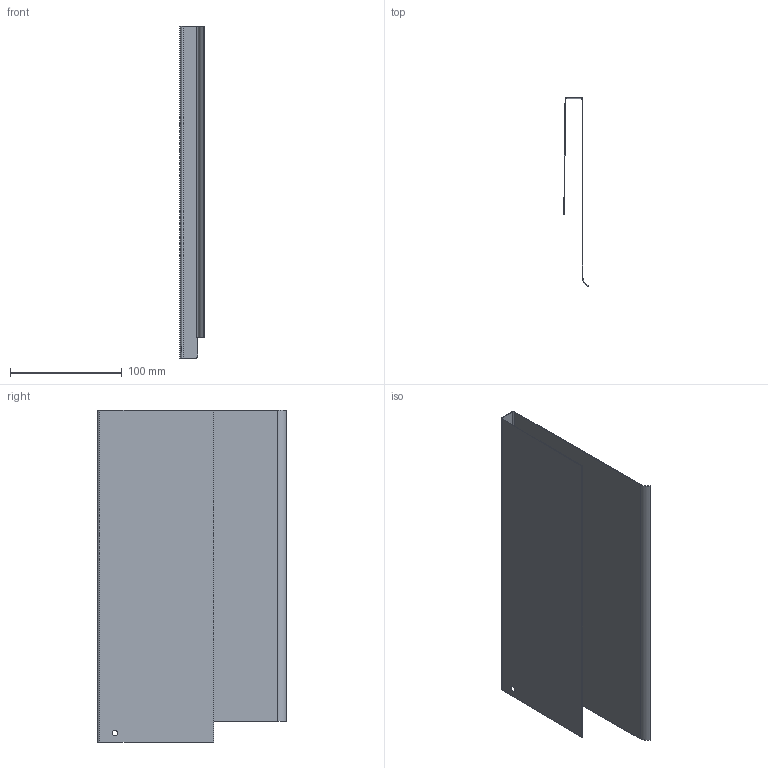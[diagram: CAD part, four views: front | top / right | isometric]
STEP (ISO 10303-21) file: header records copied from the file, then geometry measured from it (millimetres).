
FILE_DESCRIPTION (( 'STEP AP203' ), '1' );
FILE_NAME ('Nova Pro Duowing HRW H186 Deluxe links_NL300.step', '2014-02-14T12:23:05', ( 'test' ), ( '' ), 'SwSTEP 2.0', 'SolidWorks 2013', '' );
FILE_SCHEMA (( 'CONFIG_CONTROL_DESIGN' ));
Length unit declared in the file: millimetre
Products named in the file (1): Nova Pro Duowing HRW H186 Deluxe links_NL300
Bounding box: 21.82 x 169 x 297.5 mm (x, y, z)
Volume: 41289.4 mm3; surface area: 165751.2 mm2
Topology: 1 solids, 1 shells, 29 faces, 66 edges, 39 vertices
Faces by surface type: plane 20, cylinder 9
Entity records: 876 total; most frequent: CARTESIAN_POINT 147, DIRECTION 137, ORIENTED_EDGE 132, EDGE_CURVE 66, LINE 47, VECTOR 47, AXIS2_PLACEMENT_3D 45, VERTEX_POINT 39
